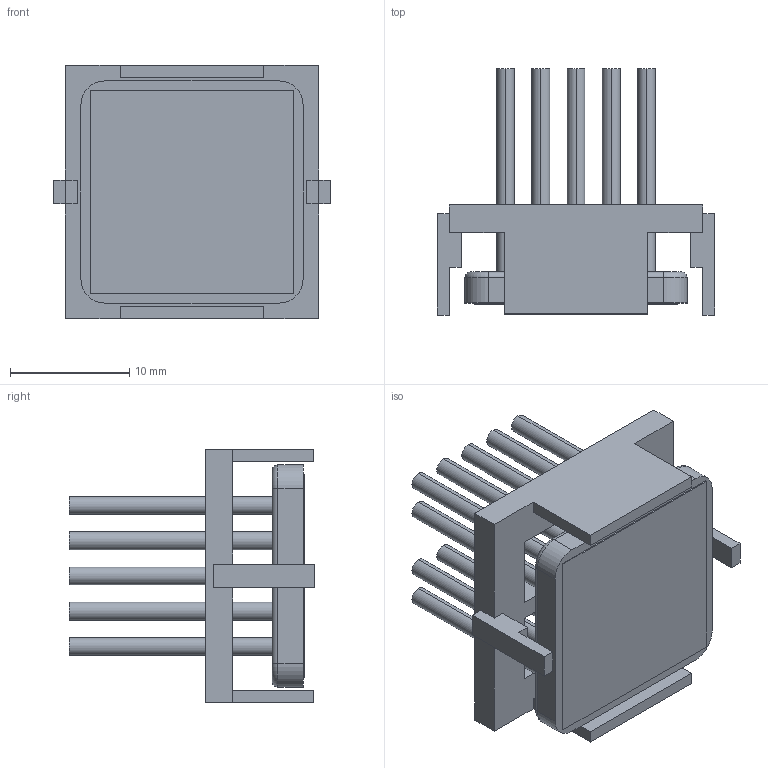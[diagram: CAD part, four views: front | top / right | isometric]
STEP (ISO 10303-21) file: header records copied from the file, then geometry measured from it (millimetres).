
FILE_DESCRIPTION (( 'STEP AP214' ), '1' );
FILE_NAME ('INM19002-20PCU-2.6O.STEP', '2023-03-02T22:47:46', ( '' ), ( '' ), 'SwSTEP 2.0', 'SolidWorks 2020', '' );
FILE_SCHEMA (( 'AUTOMOTIVE_DESIGN' ));
Length unit declared in the file: millimetre
Products named in the file (1): INM19002-20PCU-2.6O
Bounding box: 23.2 x 20.6 x 21.2 mm (x, y, z)
Volume: 2400.1 mm3; surface area: 4536.1 mm2
Topology: 3 solids, 3 shells, 133 faces, 310 edges, 204 vertices
Faces by surface type: plane 79, cylinder 50, torus 4
Entity records: 5323 total; most frequent: DIRECTION 682, CARTESIAN_POINT 648, ORIENTED_EDGE 620, EDGE_CURVE 310, AXIS2_PLACEMENT_3D 238, VECTOR 206, LINE 206, VERTEX_POINT 204
